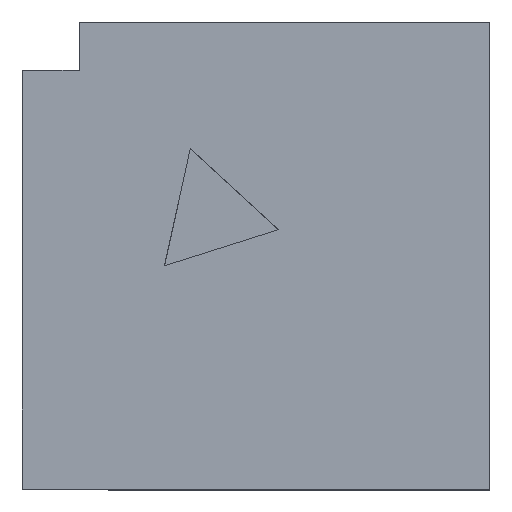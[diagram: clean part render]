
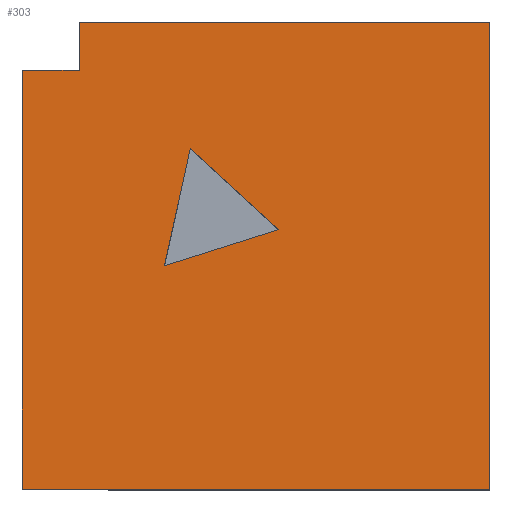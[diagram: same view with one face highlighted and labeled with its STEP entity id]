
A CAD part, top view. The second image highlights one B-rep face of the part: STEP entity #303.
In plain terms, the highlighted planar face has unit normal (0, 0, 1).
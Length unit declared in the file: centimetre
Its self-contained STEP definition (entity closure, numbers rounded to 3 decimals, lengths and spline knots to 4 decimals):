
#12 = CARTESIAN_POINT ( 'NONE',  ( 359.4135, 728.9621, 1000. ) ) ;
#13 = VECTOR ( 'NONE', #249, 100. ) ;
#14 = ORIENTED_EDGE ( 'NONE', *, *, #156, .T. ) ;
#45 = DIRECTION ( 'NONE',  ( 0., -1., 0. ) ) ;
#59 = LINE ( 'NONE', #333, #518 ) ;
#75 = LINE ( 'NONE', #122, #613 ) ;
#81 = ORIENTED_EDGE ( 'NONE', *, *, #308, .F. ) ;
#85 = CARTESIAN_POINT ( 'NONE',  ( 303.9848, 478.1446, 1000. ) ) ;
#105 = EDGE_CURVE ( 'NONE', #211, #237, #59, .T. ) ;
#110 = CARTESIAN_POINT ( 'NONE',  ( 1000., 1000., 1000. ) ) ;
#112 = CARTESIAN_POINT ( 'NONE',  ( 0., 0., 1000. ) ) ;
#115 = CARTESIAN_POINT ( 'NONE',  ( 121.6701, 1000., 1000. ) ) ;
#119 = ORIENTED_EDGE ( 'NONE', *, *, #555, .T. ) ;
#122 = CARTESIAN_POINT ( 'NONE',  ( 0., 1000., 1000. ) ) ;
#124 = VERTEX_POINT ( 'NONE', #294 ) ;
#138 = LINE ( 'NONE', #85, #366 ) ;
#144 = DIRECTION ( 'NONE',  ( -0.738, 0.675, 0. ) ) ;
#147 = VECTOR ( 'NONE', #144, 100. ) ;
#154 = CARTESIAN_POINT ( 'NONE',  ( 548.9135, 555.5506, 1000. ) ) ;
#156 = EDGE_CURVE ( 'NONE', #716, #211, #75, .T. ) ;
#158 = PLANE ( 'NONE',  #531 ) ;
#167 = FACE_BOUND ( 'NONE', #247, .T. ) ;
#204 = VERTEX_POINT ( 'NONE', #12 ) ;
#211 = VERTEX_POINT ( 'NONE', #115 ) ;
#228 = DIRECTION ( 'NONE',  ( 1., 0., 0. ) ) ;
#229 = CARTESIAN_POINT ( 'NONE',  ( 0., 896.789, 1000. ) ) ;
#237 = VERTEX_POINT ( 'NONE', #345 ) ;
#247 = EDGE_LOOP ( 'NONE', ( #81, #248, #428 ) ) ;
#248 = ORIENTED_EDGE ( 'NONE', *, *, #416, .F. ) ;
#249 = DIRECTION ( 'NONE',  ( 0., -1., 0. ) ) ;
#266 = CARTESIAN_POINT ( 'NONE',  ( 548.9135, 555.5506, 1000. ) ) ;
#283 = ORIENTED_EDGE ( 'NONE', *, *, #384, .T. ) ;
#286 = CARTESIAN_POINT ( 'NONE',  ( 0., 0., 1000. ) ) ;
#294 = CARTESIAN_POINT ( 'NONE',  ( 303.9848, 478.1446, 1000. ) ) ;
#303 = ADVANCED_FACE ( 'NONE', ( #690, #167 ), #158, .T. ) ;
#308 = EDGE_CURVE ( 'NONE', #204, #124, #571, .T. ) ;
#326 = DIRECTION ( 'NONE',  ( -1., 0., 0. ) ) ;
#333 = CARTESIAN_POINT ( 'NONE',  ( 121.6701, 896.789, 1000. ) ) ;
#335 = DIRECTION ( 'NONE',  ( 0., 1., 0. ) ) ;
#341 = VECTOR ( 'NONE', #568, 100. ) ;
#345 = CARTESIAN_POINT ( 'NONE',  ( 121.6701, 896.789, 1000. ) ) ;
#350 = LINE ( 'NONE', #569, #400 ) ;
#352 = CARTESIAN_POINT ( 'NONE',  ( 359.4135, 728.9621, 1000. ) ) ;
#355 = VERTEX_POINT ( 'NONE', #473 ) ;
#366 = VECTOR ( 'NONE', #668, 100. ) ;
#384 = EDGE_CURVE ( 'NONE', #355, #716, #387, .T. ) ;
#387 = LINE ( 'NONE', #608, #506 ) ;
#388 = CARTESIAN_POINT ( 'NONE',  ( 0., 896.789, 1000. ) ) ;
#400 = VECTOR ( 'NONE', #633, 100. ) ;
#411 = DIRECTION ( 'NONE',  ( -1., 0., 0. ) ) ;
#416 = EDGE_CURVE ( 'NONE', #627, #204, #551, .T. ) ;
#421 = CARTESIAN_POINT ( 'NONE',  ( 0., 1000., 1000. ) ) ;
#428 = ORIENTED_EDGE ( 'NONE', *, *, #491, .F. ) ;
#446 = EDGE_LOOP ( 'NONE', ( #119, #554, #542, #283, #14, #557 ) ) ;
#473 = CARTESIAN_POINT ( 'NONE',  ( 1000., 0., 1000. ) ) ;
#491 = EDGE_CURVE ( 'NONE', #124, #627, #138, .T. ) ;
#506 = VECTOR ( 'NONE', #335, 100. ) ;
#518 = VECTOR ( 'NONE', #45, 100. ) ;
#519 = DIRECTION ( 'NONE',  ( 0., 0., 1. ) ) ;
#531 = AXIS2_PLACEMENT_3D ( 'NONE', #112, #519, #228 ) ;
#542 = ORIENTED_EDGE ( 'NONE', *, *, #709, .T. ) ;
#543 = VECTOR ( 'NONE', #326, 100. ) ;
#551 = LINE ( 'NONE', #266, #147 ) ;
#554 = ORIENTED_EDGE ( 'NONE', *, *, #734, .T. ) ;
#555 = EDGE_CURVE ( 'NONE', #237, #607, #728, .T. ) ;
#557 = ORIENTED_EDGE ( 'NONE', *, *, #105, .T. ) ;
#568 = DIRECTION ( 'NONE',  ( -0.216, -0.976, 0. ) ) ;
#569 = CARTESIAN_POINT ( 'NONE',  ( 0., 0., 1000. ) ) ;
#571 = LINE ( 'NONE', #352, #341 ) ;
#594 = LINE ( 'NONE', #421, #13 ) ;
#607 = VERTEX_POINT ( 'NONE', #229 ) ;
#608 = CARTESIAN_POINT ( 'NONE',  ( 1000., 1000., 1000. ) ) ;
#613 = VECTOR ( 'NONE', #411, 100. ) ;
#627 = VERTEX_POINT ( 'NONE', #154 ) ;
#631 = VERTEX_POINT ( 'NONE', #286 ) ;
#633 = DIRECTION ( 'NONE',  ( 1., 0., 0. ) ) ;
#668 = DIRECTION ( 'NONE',  ( 0.954, 0.301, 0. ) ) ;
#690 = FACE_OUTER_BOUND ( 'NONE', #446, .T. ) ;
#709 = EDGE_CURVE ( 'NONE', #631, #355, #350, .T. ) ;
#716 = VERTEX_POINT ( 'NONE', #110 ) ;
#728 = LINE ( 'NONE', #388, #543 ) ;
#734 = EDGE_CURVE ( 'NONE', #607, #631, #594, .T. ) ;
